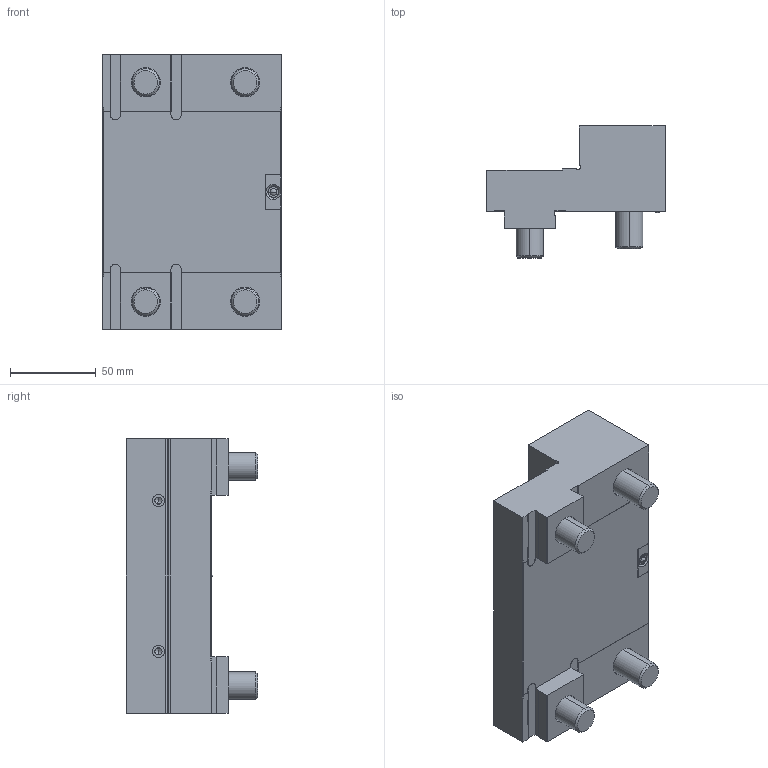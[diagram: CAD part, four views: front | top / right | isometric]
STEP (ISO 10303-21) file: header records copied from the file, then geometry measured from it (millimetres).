
FILE_DESCRIPTION (( 'STEP AP214' ), '1' );
FILE_NAME ('6921704006731.STEP', '2016-02-12T12:28:34', ( '' ), ( '' ), 'SwSTEP 2.0', 'SolidWorks 2015', '' );
FILE_SCHEMA (( 'AUTOMOTIVE_DESIGN' ));
Length unit declared in the file: millimetre
Products named in the file (4): 8006101655050_DIN 912 M16 x 55 --- 55N; 6921704006740; 8006101630050_DIN 912 M16 x 30 --- 30N; 6921704006731
Assembly tree (5 placements, depth 2):
  6921704006731
    6921704006740
    8006101630050_DIN 912 M16 x 30 --- 30N  x2
    8006101655050_DIN 912 M16 x 55 --- 55N  x2
Bounding box: 104 x 76.8 x 160.4 mm (x, y, z)
Volume: 623473.3 mm3; surface area: 88776.7 mm2
Topology: 6 solids, 6 shells, 247 faces, 585 edges, 353 vertices
Faces by surface type: plane 125, cylinder 66, cone 38, torus 16, sphere 2
Entity records: 5812 total; most frequent: DIRECTION 1001, CARTESIAN_POINT 972, ORIENTED_EDGE 906, EDGE_CURVE 453, AXIS2_PLACEMENT_3D 356, VECTOR 289, LINE 289, VERTEX_POINT 287
